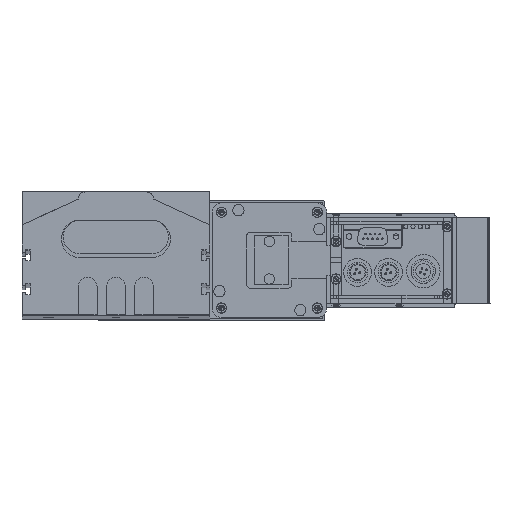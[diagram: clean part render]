
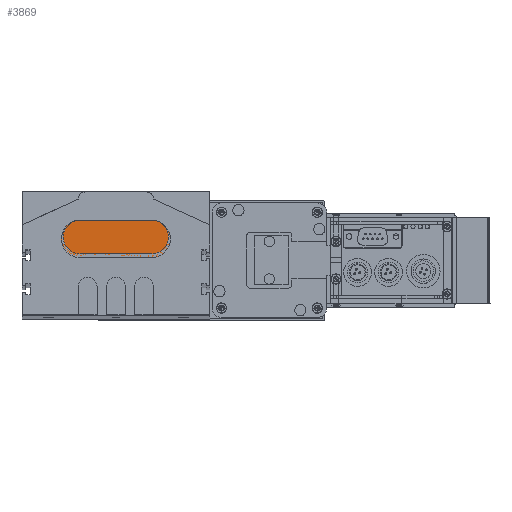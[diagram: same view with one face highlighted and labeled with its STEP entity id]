
A CAD part, top view. The second image highlights one B-rep face of the part: STEP entity #3869.
In plain terms, the highlighted planar face has unit normal (0, 0, 1).
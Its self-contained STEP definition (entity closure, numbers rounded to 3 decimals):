
#3626 = EDGE_CURVE ( 'NONE', #3742, #3755, #21907, .T. ) ;
#3689 = EDGE_LOOP ( 'NONE', ( #3835, #3844, #3850, #3837, #3888 ) ) ;
#3742 = VERTEX_POINT ( 'NONE', #22056 ) ;
#3755 = VERTEX_POINT ( 'NONE', #22101 ) ;
#3785 = EDGE_CURVE ( 'NONE', #3794, #3742, #22147, .T. ) ;
#3794 = VERTEX_POINT ( 'NONE', #22158 ) ;
#3814 = VERTEX_POINT ( 'NONE', #22231 ) ;
#3819 = VERTEX_POINT ( 'NONE', #22173 ) ;
#3820 = EDGE_CURVE ( 'NONE', #3755, #3814, #22217, .T. ) ;
#3830 = EDGE_CURVE ( 'NONE', #3819, #3794, #22207, .T. ) ;
#3833 = EDGE_CURVE ( 'NONE', #3814, #3819, #22248, .T. ) ;
#3835 = ORIENTED_EDGE ( 'NONE', *, *, #3785, .T. ) ;
#3837 = ORIENTED_EDGE ( 'NONE', *, *, #3833, .T. ) ;
#3844 = ORIENTED_EDGE ( 'NONE', *, *, #3626, .T. ) ;
#3850 = ORIENTED_EDGE ( 'NONE', *, *, #3820, .T. ) ;
#3869 = ADVANCED_FACE ( 'NONE', ( #22333 ), #22329, .T. ) ;
#3888 = ORIENTED_EDGE ( 'NONE', *, *, #3830, .T. ) ;
#21900 = DIRECTION ( 'NONE',  ( 1., 0., 0. ) ) ;
#21901 = DIRECTION ( 'NONE',  ( 0., 0., 1. ) ) ;
#21902 = CARTESIAN_POINT ( 'NONE',  ( 0., 10., 10. ) ) ;
#21903 = AXIS2_PLACEMENT_3D ( 'NONE', #21902, #21901, #21900 ) ;
#21907 = CIRCLE ( 'NONE', #21903, 10. ) ;
#22056 = CARTESIAN_POINT ( 'NONE',  ( -10., 10., 10. ) ) ;
#22101 = CARTESIAN_POINT ( 'NONE',  ( 0., 0., 10. ) ) ;
#22141 = DIRECTION ( 'NONE',  ( 1., 0., 0. ) ) ;
#22142 = DIRECTION ( 'NONE',  ( 0., 0., 1. ) ) ;
#22143 = CARTESIAN_POINT ( 'NONE',  ( 0., 10., 10. ) ) ;
#22144 = AXIS2_PLACEMENT_3D ( 'NONE', #22143, #22142, #22141 ) ;
#22147 = CIRCLE ( 'NONE', #22144, 10. ) ;
#22158 = CARTESIAN_POINT ( 'NONE',  ( 0., 20., 10. ) ) ;
#22173 = CARTESIAN_POINT ( 'NONE',  ( 38., 20., 10. ) ) ;
#22207 = LINE ( 'NONE', #22257, #22256 ) ;
#22214 = DIRECTION ( 'NONE',  ( 1., 0., 0. ) ) ;
#22215 = VECTOR ( 'NONE', #22214, 1000. ) ;
#22216 = CARTESIAN_POINT ( 'NONE',  ( 0., 0., 10. ) ) ;
#22217 = LINE ( 'NONE', #22216, #22215 ) ;
#22231 = CARTESIAN_POINT ( 'NONE',  ( 38., 0., 10. ) ) ;
#22240 = DIRECTION ( 'NONE',  ( -1., 0., 0. ) ) ;
#22241 = DIRECTION ( 'NONE',  ( 0., 0., 1. ) ) ;
#22248 = CIRCLE ( 'NONE', #22264, 10. ) ;
#22254 = CARTESIAN_POINT ( 'NONE',  ( 38., 10., 10. ) ) ;
#22255 = DIRECTION ( 'NONE',  ( -1., 0., 0. ) ) ;
#22256 = VECTOR ( 'NONE', #22255, 1000. ) ;
#22257 = CARTESIAN_POINT ( 'NONE',  ( 0., 20., 10. ) ) ;
#22264 = AXIS2_PLACEMENT_3D ( 'NONE', #22254, #22241, #22240 ) ;
#22321 = DIRECTION ( 'NONE',  ( 1., 0., 0. ) ) ;
#22322 = DIRECTION ( 'NONE',  ( 0., 0., 1. ) ) ;
#22327 = CARTESIAN_POINT ( 'NONE',  ( 0., 10., 10. ) ) ;
#22329 = PLANE ( 'NONE',  #22331 ) ;
#22331 = AXIS2_PLACEMENT_3D ( 'NONE', #22327, #22322, #22321 ) ;
#22333 = FACE_OUTER_BOUND ( 'NONE', #3689, .T. ) ;
